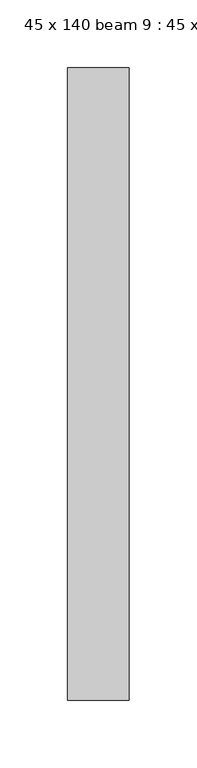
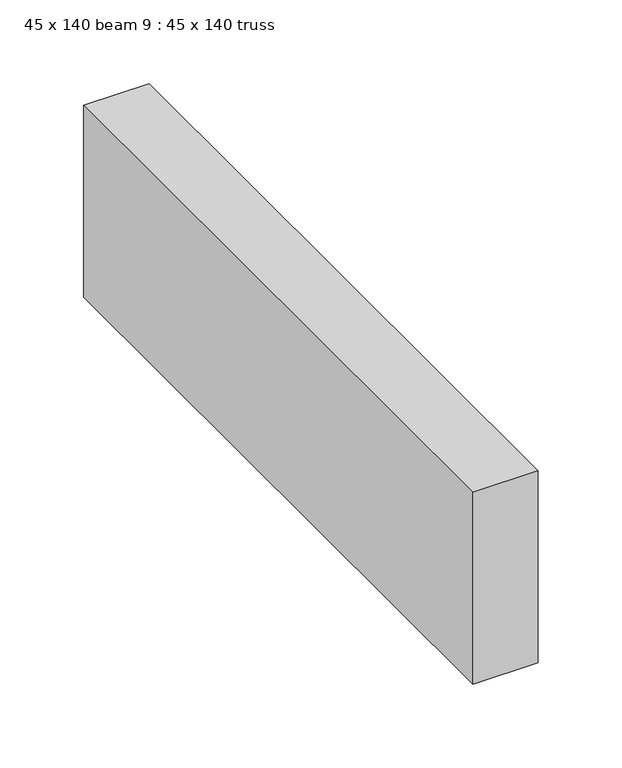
"""IFC4 building model written with IfcOpenShell, lengths in millimetres: proxy geometry, 45 x 140 beam 9 : 45 x 140 truss."""

from ifc_helpers import new_model, si_unit, frame, origin, place, context, project, spatial, polyline, outline, extrude, source, transform, mapped, element, save


def proxy_45_x_140_beam_9_45_x_140_truss_0c6993bd(model_context):
    return source(origin(), model_context, "Body", "SweptSolid", [
        extrude(outline(polyline([(-27409.3180747, -22176.8867613), (-27364.3180747, -22176.8867613), (-27364.3180747, -22641.8867613), (-27409.3180747, -22641.8867613), (-27409.3180747, -22176.8867613)])), frame((0.0, 0.0, 3644.2452806), z_axis=(0.0, 0.0, 1.0), x_axis=(1.0, 0.0, 0.0)), (0.0, 0.0, 1.0), 140.0),
    ])


if __name__ == "__main__":
    model = new_model("IFC4")
    model_context = context("Model", 3, world=origin())
    ifc_project = project(units=[si_unit("LENGTHUNIT", "METRE", prefix="MILLI")], contexts=[model_context])
    site = spatial("IfcSite", under=ifc_project)
    building = spatial("IfcBuilding", under=site)
    placement = place(None, origin())
    proxy_45_x_140_beam_9_45_x_140_truss_shape = proxy_45_x_140_beam_9_45_x_140_truss_0c6993bd(model_context)
    element("IfcBuildingElementProxy", 1, Name="45 x 140 beam 9 : 45 x 140 truss", ObjectType="45 x 140 beam 9 : 45 x 140 truss", at=placement, inside=building, context=model_context, shape_type="MappedRepresentation", body=[
        mapped(proxy_45_x_140_beam_9_45_x_140_truss_shape, transform((0.0, 0.0, 0.0), x_axis=(1.0, 0.0, 0.0), y_axis=(0.0, 1.0, 0.0), z_axis=(0.0, 0.0, 1.0))),
    ])
    save(model, "model.ifc")
